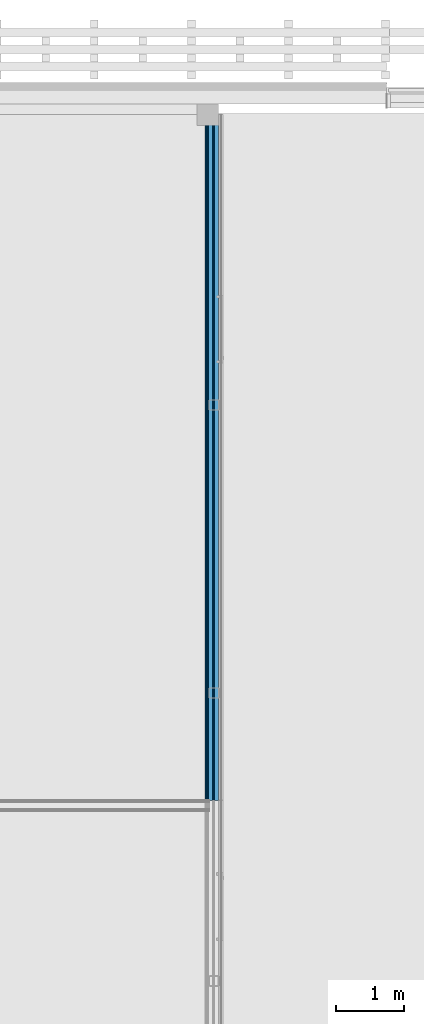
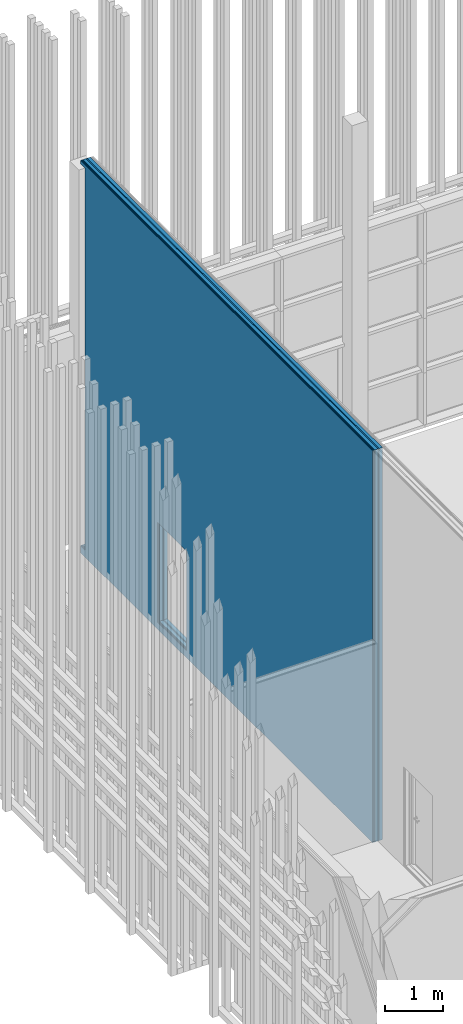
# One storey, part 230 of 260: 6 building element parts, 1 opening, 1 element without a shape of its own.
"""IFC2X3 building model written with IfcOpenShell, lengths in millimetres."""

from ifc_helpers import new_model, entity, si_unit, converted_unit, derived_unit, money_unit, direction, frame, origin_with_axes, place, context, subcontext, project, spatial, faceted_brep, material, type_object, element, aggregate, save


model = new_model("IFC2X3")

# Units and contexts
model_context = context("Model", 3, precision=0.01, world=origin_with_axes(), true_north=direction((0.0, 1.0)))
body_context = subcontext(model_context, "Body", "Model", "MODEL_VIEW")
ifc_project = project(units=[si_unit("LENGTHUNIT", "METRE", prefix="MILLI"), si_unit("AREAUNIT", "SQUARE_METRE"), si_unit("VOLUMEUNIT", "CUBIC_METRE"), converted_unit("PLANEANGLEUNIT", "DEGREE", entity("IfcPlaneAngleMeasure", 0.0174532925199), si_unit("PLANEANGLEUNIT", "RADIAN"), dimensions=[0, 0, 0, 0, 0, 0, 0]), money_unit("EUR"), converted_unit("TIMEUNIT", "Year", entity("IfcTimeMeasure", 31556926.0), si_unit("TIMEUNIT", "SECOND"), dimensions=[0, 0, 1, 0, 0, 0, 0]), si_unit("MASSUNIT", "GRAM", prefix="KILO"), si_unit("THERMODYNAMICTEMPERATUREUNIT", "DEGREE_CELSIUS"), si_unit("LUMINOUSINTENSITYUNIT", "LUMEN"), si_unit("ENERGYUNIT", "JOULE", prefix="MEGA"), derived_unit("THERMALCONDUCTANCEUNIT", [(si_unit("POWERUNIT", "WATT"), 1), (si_unit("LENGTHUNIT", "METRE"), -1), (si_unit("THERMODYNAMICTEMPERATUREUNIT", "KELVIN"), -1)]), derived_unit("SPECIFICHEATCAPACITYUNIT", [(si_unit("ENERGYUNIT", "JOULE"), 1), (si_unit("MASSUNIT", "GRAM", prefix="KILO"), -1), (si_unit("THERMODYNAMICTEMPERATUREUNIT", "KELVIN"), -1)]), derived_unit("MASSDENSITYUNIT", [(si_unit("MASSUNIT", "GRAM", prefix="KILO"), 1), (si_unit("VOLUMEUNIT", "CUBIC_METRE"), -1)])], contexts=[model_context])

# Site, building, storey
site_placement = place(None, origin_with_axes())
site = spatial("IfcSite", under=ifc_project, at=site_placement, Name="Kolde pst 67a", CompositionType="ELEMENT")
building_placement = place(site_placement, origin_with_axes())
building = spatial("IfcBuilding", under=site, at=building_placement, Name="Riigigümnaasium", CompositionType="ELEMENT")
storey_placement = place(building_placement, origin_with_axes())
storey = spatial("IfcBuildingStorey", under=building, at=storey_placement, Name="1. korrus", CompositionType="ELEMENT", Elevation=0.0)

# Wall, opening, building element parts
wall_type = type_object("IfcWallType", Name="SS-MK-6,6/1_vill75+dold+värv tehno-võimla 60dB 257", PredefinedType="NOTDEFINED")
wall_placement = place(storey_placement, frame((4145.00006412, 84279.9999608, -150.0), z_axis=(0.0, 0.0, 1.0), x_axis=(0.0, -1.0, 0.0)))
wall = element("IfcWall", 1, at=wall_placement, inside=storey, type_object=wall_type, Name="Sisesein")
opening_placement = place(wall_placement, frame((3159.99994218, 0.0, 150.0), z_axis=(0.0, 0.0, 1.0), x_axis=(1.0, 0.0, 0.0)))
element("IfcOpeningElement", 2, at=opening_placement, cuts=wall, Name="Siseuks", context=body_context, shape_type="Brep", body=[
    faceted_brep([(-500.0, 514.0, 2100.0), (-500.0, 514.0, 0.0), (-500.0, -257.0, 0.0), (-500.0, -257.0, 2100.0), (500.0, 514.0, 2100.0), (500.0, 514.0, 0.0), (500.0, -257.0, 0.0), (500.0, -257.0, 2100.0)], [[[0, 1, 2, 3]], [[0, 4, 5, 1]], [[1, 5, 6, 2]], [[3, 2, 6, 7]], [[4, 0, 3, 7]], [[5, 4, 7, 6]]]),
])
ifc_material_1 = material(Name="_KARKASS - metallkarkass CW 66/35/06, samm 600, mineraalvill karkassi vahel")
building_element_part_1_placement = place(wall_placement, origin_with_axes())
building_element_part_1 = element("IfcBuildingElementPart", 3, at=building_element_part_1_placement, material=ifc_material_1, Name="_KARKASS - metallkarkass CW 66/35/06, samm 600, mineraalvill karkassi vahel", context=body_context, shape_type="Brep", body=[
    faceted_brep([(0.0, 131.0, 150.0), (0.0, 194.999435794, 150.0), (0.0, 194.999435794, 8205.82667178), (0.0, 131.0, 8205.82667178), (0.0, 131.0, 8270.0), (0.0, 197.0, 8270.0), (0.0, 197.0, 0.0), (0.0, 131.0, 0.0), (160.019126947, 131.0, 150.0), (160.019126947, 194.999435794, 150.0), (160.019126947, 194.999435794, 8205.82667178), (160.019126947, 131.0, 8205.82667178), (10095.0093099, 131.0, 0.0), (10095.0093099, 131.0, 8270.0), (3659.99994218, 131.0, 2250.0), (3659.99994218, 131.0, 150.0), (2659.99994218, 131.0, 150.0), (2659.99994218, 131.0, 2250.0), (10095.0093099, 197.0, 8270.0), (10095.0093099, 197.0, 0.0), (2659.99994218, 197.0, 150.0), (3659.99994218, 197.0, 150.0), (3659.99994218, 197.0, 2250.0), (2659.99994218, 197.0, 2250.0)], [[[0, 1, 2, 3, 4, 5, 6, 7]], [[1, 0, 8, 9]], [[2, 1, 9, 10]], [[3, 2, 10, 11]], [[8, 0, 7, 12, 13, 4, 3, 11], [14, 15, 16, 17]], [[13, 18, 5, 4]], [[18, 19, 6, 5], [20, 21, 22, 23]], [[19, 12, 7, 6]], [[8, 11, 10, 9]], [[19, 18, 13, 12]], [[14, 22, 21, 15]], [[15, 21, 20, 16]], [[16, 20, 23, 17]], [[17, 23, 22, 14]]]),
])
ifc_material_2 = material(Name="_ÕHKVAHE")
building_element_part_2_placement = place(wall_placement, origin_with_axes())
building_element_part_2 = element("IfcBuildingElementPart", 4, at=building_element_part_2_placement, material=ifc_material_2, Name="_ÕHKVAHE", context=body_context, shape_type="Brep", body=[
    faceted_brep([(160.019126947, 131.0, 150.0), (160.019126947, 131.0, 8205.82667178), (0.0, 131.0, 8205.82667178), (0.0, 131.0, 8270.0), (10095.0093099, 131.0, 8270.0), (10095.0093099, 131.0, 0.0), (0.0, 131.0, 0.0), (0.0, 131.0, 150.0), (2659.99994218, 131.0, 150.0), (3659.99994218, 131.0, 150.0), (3659.99994218, 131.0, 2250.0), (2659.99994218, 131.0, 2250.0), (160.019126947, 111.0, 150.0), (160.019126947, 111.0, 8205.82667178), (0.0, 111.0, 8205.82667178), (0.0, 111.0, 8270.0), (10095.0093099, 111.0, 8270.0), (10095.0093099, 111.0, 0.0), (0.0, 111.0, 0.0), (0.0, 111.0, 150.0), (3659.99994218, 111.0, 150.0), (2659.99994218, 111.0, 150.0), (3659.99994218, 111.0, 2250.0), (2659.99994218, 111.0, 2250.0)], [[[0, 1, 2, 3, 4, 5, 6, 7], [8, 9, 10, 11]], [[1, 0, 12, 13]], [[14, 2, 1, 13]], [[2, 14, 15, 3]], [[16, 4, 3, 15]], [[5, 4, 16, 17]], [[5, 17, 18, 6]], [[19, 7, 6, 18]], [[0, 7, 19, 12]], [[20, 9, 8, 21]], [[22, 10, 9, 20]], [[23, 11, 10, 22]], [[21, 8, 11, 23]], [[12, 19, 18, 17, 16, 15, 14, 13], [22, 20, 21, 23]]]),
])
building_element_part_3_placement = place(wall_placement, origin_with_axes())
building_element_part_3 = element("IfcBuildingElementPart", 5, at=building_element_part_3_placement, material=ifc_material_1, Name="_KARKASS - metallkarkass CW 66/35/06, samm 600, mineraalvill karkassi vahel", context=body_context, shape_type="Brep", body=[
    faceted_brep([(160.019126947, 111.0, 150.0), (160.019126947, 111.0, 8205.82667178), (0.0, 111.0, 8205.82667178), (0.0, 111.0, 8270.0), (10095.0093099, 111.0, 8270.0), (10095.0093099, 111.0, 0.0), (0.0, 111.0, 0.0), (0.0, 111.0, 150.0), (2659.99994218, 111.0, 2250.0), (2659.99994218, 111.0, 150.0), (3659.99994218, 111.0, 150.0), (3659.99994218, 111.0, 2250.0), (160.019126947, 45.0, 150.0), (160.019126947, 45.0, 8205.82667178), (0.0, 45.0, 8205.82667178), (0.0, 45.0, 8270.0), (10095.0093099, 45.0, 8270.0), (10095.0093099, 45.0, 0.0), (0.0, 45.0, 0.0), (0.0, 45.0, 150.0), (2659.99994218, 45.0, 2250.0), (2659.99994218, 45.0, 150.0), (3659.99994218, 45.0, 150.0), (3659.99994218, 45.0, 2250.0)], [[[0, 1, 2, 3, 4, 5, 6, 7], [8, 9, 10, 11]], [[1, 0, 12, 13]], [[14, 2, 1, 13]], [[2, 14, 15, 3]], [[15, 16, 4, 3]], [[17, 5, 4, 16]], [[6, 5, 17, 18]], [[19, 7, 6, 18]], [[0, 7, 19, 12]], [[20, 21, 9, 8]], [[21, 22, 10, 9]], [[22, 23, 11, 10]], [[23, 20, 8, 11]], [[12, 19, 18, 17, 16, 15, 14, 13], [20, 23, 22, 21]]]),
])
ifc_material_3 = material(Name="_PLAATMATERJAL - tuletõkkekipsplaat, Knauf Red GKF või samaväärne")
building_element_part_4_placement = place(wall_placement, origin_with_axes())
building_element_part_4 = element("IfcBuildingElementPart", 6, at=building_element_part_4_placement, material=ifc_material_3, Name="_PLAATMATERJAL - tuletõkkekipsplaat, Knauf Red GKF või samaväärne", context=body_context, shape_type="Brep", body=[
    faceted_brep([(160.019126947, 45.0, 150.0), (160.019126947, 45.0, 8205.82667178), (0.0, 45.0, 8205.82667178), (0.0, 45.0, 8270.0), (10095.0093099, 45.0, 8270.0), (10095.0093099, 45.0, 0.0), (0.0, 45.0, 0.0), (0.0, 45.0, 150.0), (2659.99994218, 45.0, 2250.0), (2659.99994218, 45.0, 150.0), (3659.99994218, 45.0, 150.0), (3659.99994218, 45.0, 2250.0), (160.019126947, 30.0, 150.0), (160.019126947, 30.0, 8205.82667178), (0.0, 30.0, 8205.82667178), (0.0, 30.0, 8270.0), (10095.0093099, 30.0, 8270.0), (10095.0093099, 30.0, 0.0), (0.0, 30.0, 0.0), (0.0, 30.0, 150.0), (2659.99994218, 30.0, 2250.0), (2659.99994218, 30.0, 150.0), (3659.99994218, 30.0, 150.0), (3659.99994218, 30.0, 2250.0)], [[[0, 1, 2, 3, 4, 5, 6, 7], [8, 9, 10, 11]], [[1, 0, 12, 13]], [[14, 2, 1, 13]], [[2, 14, 15, 3]], [[15, 16, 4, 3]], [[17, 5, 4, 16]], [[6, 5, 17, 18]], [[19, 7, 6, 18]], [[0, 7, 19, 12]], [[20, 21, 9, 8]], [[21, 22, 10, 9]], [[22, 23, 11, 10]], [[23, 20, 8, 11]], [[12, 19, 18, 17, 16, 15, 14, 13], [20, 23, 22, 21]]]),
])
building_element_part_5_placement = place(wall_placement, origin_with_axes())
building_element_part_5 = element("IfcBuildingElementPart", 7, at=building_element_part_5_placement, material=ifc_material_3, Name="_PLAATMATERJAL - tuletõkkekipsplaat, Knauf Red GKF või samaväärne", context=body_context, shape_type="Brep", body=[
    faceted_brep([(160.019126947, 30.0, 150.0), (160.019126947, 30.0, 8205.82667178), (0.0, 30.0, 8205.82667178), (0.0, 30.0, 8270.0), (10095.0093099, 30.0, 8270.0), (10095.0093099, 30.0, 0.0), (0.0, 30.0, 0.0), (0.0, 30.0, 150.0), (2659.99994218, 30.0, 2250.0), (2659.99994218, 30.0, 150.0), (3659.99994218, 30.0, 150.0), (3659.99994218, 30.0, 2250.0), (160.019126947, 15.0, 150.0), (160.019126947, 15.0, 8205.82667178), (0.0, 15.0, 8205.82667178), (0.0, 15.0, 8270.0), (10095.0093099, 15.0, 8270.0), (10095.0093099, 15.0, 0.0), (0.0, 15.0, 0.0), (0.0, 15.0, 150.0), (2659.99994218, 15.0, 2250.0), (2659.99994218, 15.0, 150.0), (3659.99994218, 15.0, 150.0), (3659.99994218, 15.0, 2250.0)], [[[0, 1, 2, 3, 4, 5, 6, 7], [8, 9, 10, 11]], [[1, 0, 12, 13]], [[14, 2, 1, 13]], [[2, 14, 15, 3]], [[15, 16, 4, 3]], [[17, 5, 4, 16]], [[6, 5, 17, 18]], [[19, 7, 6, 18]], [[0, 7, 19, 12]], [[20, 21, 9, 8]], [[21, 22, 10, 9]], [[22, 23, 11, 10]], [[23, 20, 8, 11]], [[12, 19, 18, 17, 16, 15, 14, 13], [20, 23, 22, 21]]]),
])
building_element_part_6_placement = place(wall_placement, origin_with_axes())
building_element_part_6 = element("IfcBuildingElementPart", 8, at=building_element_part_6_placement, material=ifc_material_3, Name="_PLAATMATERJAL - tuletõkkekipsplaat, Knauf Red GKF või samaväärne", context=body_context, shape_type="Brep", body=[
    faceted_brep([(160.019126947, 15.0, 150.0), (160.019126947, 15.0, 8205.82667178), (0.0, 15.0, 8205.82667178), (0.0, 15.0, 8270.0), (10095.0093099, 15.0, 8270.0), (10095.0093099, 15.0, 0.0), (0.0, 15.0, 0.0), (0.0, 15.0, 150.0), (2659.99994218, 15.0, 2250.0), (2659.99994218, 15.0, 150.0), (3659.99994218, 15.0, 150.0), (3659.99994218, 15.0, 2250.0), (160.019126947, 0.0, 150.0), (160.019126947, 0.0, 8205.82667178), (0.0, 0.0, 8205.82667178), (0.0, 0.0, 8270.0), (10095.0093099, 0.0, 8270.0), (10095.0093099, 0.0, 0.0), (0.0, 0.0, 0.0), (0.0, 0.0, 150.0), (2659.99994218, 0.0, 2250.0), (2659.99994218, 0.0, 150.0), (3659.99994218, 0.0, 150.0), (3659.99994218, 0.0, 2250.0)], [[[0, 1, 2, 3, 4, 5, 6, 7], [8, 9, 10, 11]], [[1, 0, 12, 13]], [[14, 2, 1, 13]], [[2, 14, 15, 3]], [[15, 16, 4, 3]], [[17, 5, 4, 16]], [[6, 5, 17, 18]], [[19, 7, 6, 18]], [[0, 7, 19, 12]], [[20, 21, 9, 8]], [[21, 22, 10, 9]], [[22, 23, 11, 10]], [[23, 20, 8, 11]], [[12, 19, 18, 17, 16, 15, 14, 13], [20, 23, 22, 21]]]),
])
aggregate(wall, [building_element_part_1, building_element_part_2, building_element_part_3, building_element_part_4, building_element_part_5, building_element_part_6])

save(model, "model.ifc")
